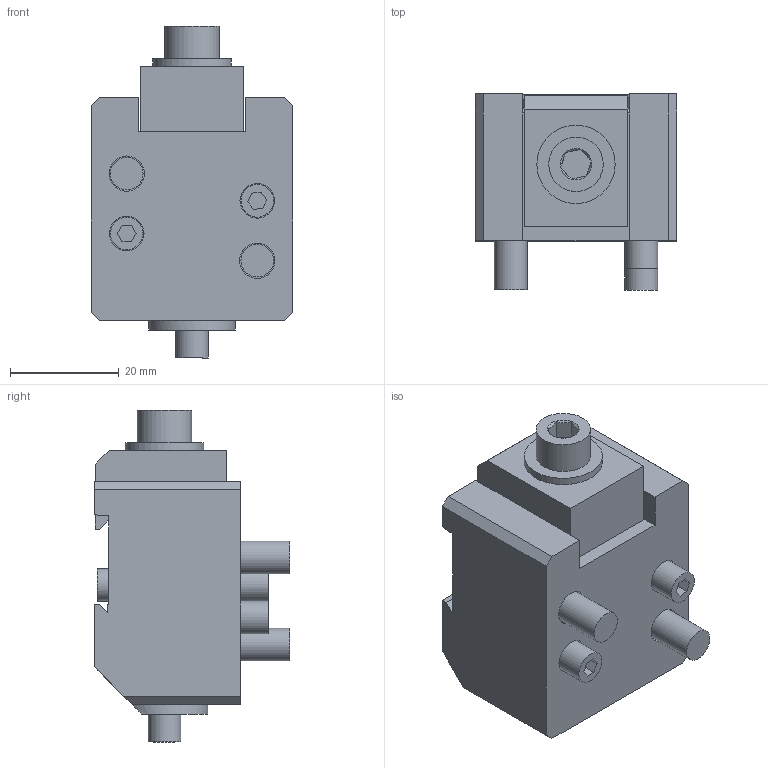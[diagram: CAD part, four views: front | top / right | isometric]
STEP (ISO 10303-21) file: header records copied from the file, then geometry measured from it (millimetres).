
FILE_DESCRIPTION (( 'STEP AP214' ), '1' );
FILE_NAME ('DM25_WEBSITE.STEP', '2025-08-11T13:29:51', ( '' ), ( '' ), 'SwSTEP 2.0', 'SolidWorks 2025', '' );
FILE_SCHEMA (( 'AUTOMOTIVE_DESIGN' ));
Length unit declared in the file: millimetre
Products named in the file (9): D_DM25 Spring_WEBSITE; D_ M6-1.0MM X 55MM SHCS_WEBSITE; D_M6 Flat Washer_WEBSITE; D_LP6_WEBSITE_LP6; D_M6-1.0MM X 20MM SHCS_WEBSITE; DM25_WEBSITE; D_DM25 Body_WEBSITE_MILL OP2; D_DM25 Clamp-2_WEBSITE_SLD25; D_DM25 Clamp-1_WEBSITE
Assembly tree (11 placements, depth 2):
  DM25_WEBSITE
    D_DM25 Body_WEBSITE_MILL OP2
    D_ M6-1.0MM X 55MM SHCS_WEBSITE
    D_DM25 Clamp-1_WEBSITE
    D_DM25 Clamp-2_WEBSITE_SLD25
    D_DM25 Spring_WEBSITE
    D_M6 Flat Washer_WEBSITE
    D_M6-1.0MM X 20MM SHCS_WEBSITE  x2
    D_LP6_WEBSITE_LP6  x3
Bounding box: 37 x 36 x 61 mm (x, y, z)
Volume: 39882.9 mm3; surface area: 19879.9 mm2
Topology: 11 solids, 11 shells, 171 faces, 360 edges, 229 vertices
Faces by surface type: plane 114, cylinder 32, cone 21, bspline 4
Full cylindrical faces by diameter (mm): 4.2 x2, 5 x4, 6 x6, 6.365 x3, 6.4 x1, 6.477 x2, 6.604 x1, 6.756 x1, 9.525 x1, 10 x3, 10.795 x2, 12.69 x1, 12.7 x1, 12.738 x2, 14.4 x1
Entity records: 5142 total; most frequent: CARTESIAN_POINT 2086, DIRECTION 561, ORIENTED_EDGE 482, EDGE_CURVE 241, AXIS2_PLACEMENT_3D 209, EDGE_LOOP 189, VERTEX_POINT 170, FACE_OUTER_BOUND 156
